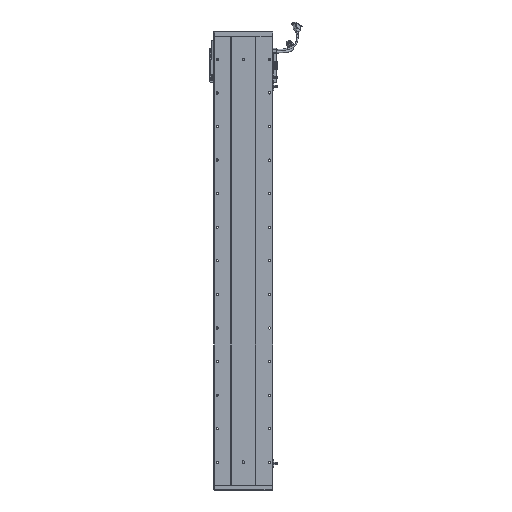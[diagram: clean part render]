
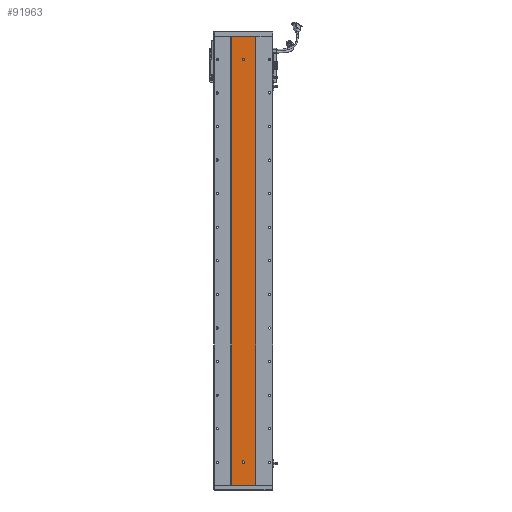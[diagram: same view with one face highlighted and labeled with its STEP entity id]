
A CAD part, front view. The second image highlights one B-rep face of the part: STEP entity #91963.
In plain terms, the highlighted planar face has unit normal (0, -1, 0).
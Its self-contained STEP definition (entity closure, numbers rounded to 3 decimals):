
#1575 = ORIENTED_EDGE ( 'NONE', *, *, #8328, .F. ) ;
#1707 = DIRECTION ( 'NONE',  ( 0., 0., -1. ) ) ;
#1928 = DIRECTION ( 'NONE',  ( 0., 0., -1. ) ) ;
#2751 = VECTOR ( 'NONE', #83590, 1000. ) ;
#5515 = CARTESIAN_POINT ( 'NONE',  ( 3277.529, 1415.701, 70. ) ) ;
#6787 = ORIENTED_EDGE ( 'NONE', *, *, #28396, .T. ) ;
#7328 = CARTESIAN_POINT ( 'NONE',  ( 3283.529, 1415.701, 70. ) ) ;
#7798 = CARTESIAN_POINT ( 'NONE',  ( 3280.529, 1415.701, 1271.5 ) ) ;
#8328 = EDGE_CURVE ( 'NONE', #8463, #70499, #37011, .T. ) ;
#8463 = VERTEX_POINT ( 'NONE', #17345 ) ;
#8589 = DIRECTION ( 'NONE',  ( 0., -1., 0. ) ) ;
#8596 = VECTOR ( 'NONE', #14238, 1000. ) ;
#9028 = CIRCLE ( 'NONE', #21273, 3. ) ;
#9579 = VERTEX_POINT ( 'NONE', #58593 ) ;
#11524 = EDGE_CURVE ( 'NONE', #33697, #50998, #18858, .T. ) ;
#11612 = ORIENTED_EDGE ( 'NONE', *, *, #40353, .F. ) ;
#11848 = ORIENTED_EDGE ( 'NONE', *, *, #11524, .F. ) ;
#12947 = ORIENTED_EDGE ( 'NONE', *, *, #36102, .F. ) ;
#12991 = EDGE_LOOP ( 'NONE', ( #16657, #11848, #11612, #6787 ) ) ;
#13696 = CARTESIAN_POINT ( 'NONE',  ( 3316.311, 1415.701, 1337. ) ) ;
#14238 = DIRECTION ( 'NONE',  ( 0., 0., 1. ) ) ;
#14892 = DIRECTION ( 'NONE',  ( 0., 0., 1. ) ) ;
#16000 = CARTESIAN_POINT ( 'NONE',  ( 3244.748, 1415.701, 1337. ) ) ;
#16657 = ORIENTED_EDGE ( 'NONE', *, *, #81113, .T. ) ;
#17109 = DIRECTION ( 'NONE',  ( 1., 0., 0. ) ) ;
#17345 = CARTESIAN_POINT ( 'NONE',  ( 3283.529, 1415.701, 70. ) ) ;
#18494 = AXIS2_PLACEMENT_3D ( 'NONE', #38481, #53822, #88657 ) ;
#18858 = LINE ( 'NONE', #13696, #61511 ) ;
#19363 = DIRECTION ( 'NONE',  ( 0., 0., -1. ) ) ;
#20820 = CARTESIAN_POINT ( 'NONE',  ( 3244.748, 1415.701, 0. ) ) ;
#21273 = AXIS2_PLACEMENT_3D ( 'NONE', #40180, #61555, #82843 ) ;
#21808 = DIRECTION ( 'NONE',  ( 0., 1., 0. ) ) ;
#24726 = CARTESIAN_POINT ( 'NONE',  ( 3283.529, 1415.701, 67. ) ) ;
#28125 = VERTEX_POINT ( 'NONE', #7798 ) ;
#28396 = EDGE_CURVE ( 'NONE', #64522, #32036, #88911, .T. ) ;
#28525 = ORIENTED_EDGE ( 'NONE', *, *, #75137, .F. ) ;
#31021 = FACE_BOUND ( 'NONE', #80740, .T. ) ;
#32036 = VERTEX_POINT ( 'NONE', #20820 ) ;
#32767 = DIRECTION ( 'NONE',  ( 0., -1., 0. ) ) ;
#32855 = CARTESIAN_POINT ( 'NONE',  ( 3316.311, 1415.701, 1337. ) ) ;
#33697 = VERTEX_POINT ( 'NONE', #32855 ) ;
#35833 = LINE ( 'NONE', #60094, #86297 ) ;
#36102 = EDGE_CURVE ( 'NONE', #72199, #84488, #57563, .T. ) ;
#37011 = CIRCLE ( 'NONE', #61444, 3. ) ;
#37372 = CARTESIAN_POINT ( 'NONE',  ( 3280.529, 1415.701, 67. ) ) ;
#38481 = CARTESIAN_POINT ( 'NONE',  ( 3280.529, 1415.701, 1268.5 ) ) ;
#38809 = CIRCLE ( 'NONE', #18494, 3. ) ;
#39942 = EDGE_CURVE ( 'NONE', #9579, #28125, #47838, .T. ) ;
#39976 = FACE_OUTER_BOUND ( 'NONE', #12991, .T. ) ;
#40180 = CARTESIAN_POINT ( 'NONE',  ( 3280.529, 1415.701, 67. ) ) ;
#40353 = EDGE_CURVE ( 'NONE', #64522, #33697, #92529, .T. ) ;
#44244 = DIRECTION ( 'NONE',  ( 0., -1., 0. ) ) ;
#44688 = CARTESIAN_POINT ( 'NONE',  ( 3280.529, 1415.701, 1268.5 ) ) ;
#47838 = CIRCLE ( 'NONE', #49963, 3. ) ;
#48449 = DIRECTION ( 'NONE',  ( 1., 0., 0. ) ) ;
#49963 = AXIS2_PLACEMENT_3D ( 'NONE', #44688, #32767, #60695 ) ;
#50998 = VERTEX_POINT ( 'NONE', #81732 ) ;
#51643 = ORIENTED_EDGE ( 'NONE', *, *, #83727, .F. ) ;
#51650 = EDGE_CURVE ( 'NONE', #84488, #78385, #9028, .T. ) ;
#51910 = VECTOR ( 'NONE', #19363, 1000. ) ;
#53822 = DIRECTION ( 'NONE',  ( 0., -1., 0. ) ) ;
#54600 = LINE ( 'NONE', #7328, #8596 ) ;
#55376 = CARTESIAN_POINT ( 'NONE',  ( 3277.529, 1415.701, 67. ) ) ;
#57400 = EDGE_CURVE ( 'NONE', #78385, #8463, #54600, .T. ) ;
#57563 = CIRCLE ( 'NONE', #71990, 3. ) ;
#57914 = CARTESIAN_POINT ( 'NONE',  ( 3244.748, 1415.701, 1337. ) ) ;
#58593 = CARTESIAN_POINT ( 'NONE',  ( 3280.529, 1415.701, 1265.5 ) ) ;
#59006 = CARTESIAN_POINT ( 'NONE',  ( 3277.529, 1415.701, 70. ) ) ;
#60094 = CARTESIAN_POINT ( 'NONE',  ( 3244.748, 1415.701, 0. ) ) ;
#60695 = DIRECTION ( 'NONE',  ( 0., 0., -1. ) ) ;
#61444 = AXIS2_PLACEMENT_3D ( 'NONE', #87653, #8589, #1707 ) ;
#61511 = VECTOR ( 'NONE', #83984, 1000. ) ;
#61555 = DIRECTION ( 'NONE',  ( 0., -1., 0. ) ) ;
#64041 = CARTESIAN_POINT ( 'NONE',  ( 3280.529, 1415.701, 64. ) ) ;
#64515 = LINE ( 'NONE', #5515, #2751 ) ;
#64522 = VERTEX_POINT ( 'NONE', #16000 ) ;
#67904 = ORIENTED_EDGE ( 'NONE', *, *, #57400, .F. ) ;
#69646 = EDGE_LOOP ( 'NONE', ( #12947, #28525, #1575, #67904, #87325 ) ) ;
#70100 = VECTOR ( 'NONE', #48449, 1000. ) ;
#70499 = VERTEX_POINT ( 'NONE', #59006 ) ;
#71990 = AXIS2_PLACEMENT_3D ( 'NONE', #37372, #44244, #1928 ) ;
#72199 = VERTEX_POINT ( 'NONE', #55376 ) ;
#73150 = CARTESIAN_POINT ( 'NONE',  ( 3244.748, 1415.701, 1337. ) ) ;
#75002 = ORIENTED_EDGE ( 'NONE', *, *, #39942, .F. ) ;
#75137 = EDGE_CURVE ( 'NONE', #70499, #72199, #64515, .T. ) ;
#78385 = VERTEX_POINT ( 'NONE', #24726 ) ;
#80740 = EDGE_LOOP ( 'NONE', ( #75002, #51643 ) ) ;
#81113 = EDGE_CURVE ( 'NONE', #32036, #50998, #35833, .T. ) ;
#81732 = CARTESIAN_POINT ( 'NONE',  ( 3316.311, 1415.701, 0. ) ) ;
#82843 = DIRECTION ( 'NONE',  ( 0., 0., -1. ) ) ;
#83011 = CARTESIAN_POINT ( 'NONE',  ( 3244.748, 1415.701, 1337. ) ) ;
#83590 = DIRECTION ( 'NONE',  ( 0., 0., -1. ) ) ;
#83727 = EDGE_CURVE ( 'NONE', #28125, #9579, #38809, .T. ) ;
#83984 = DIRECTION ( 'NONE',  ( 0., 0., -1. ) ) ;
#84488 = VERTEX_POINT ( 'NONE', #64041 ) ;
#85802 = PLANE ( 'NONE',  #86588 ) ;
#86297 = VECTOR ( 'NONE', #17109, 1000. ) ;
#86588 = AXIS2_PLACEMENT_3D ( 'NONE', #57914, #21808, #14892 ) ;
#87325 = ORIENTED_EDGE ( 'NONE', *, *, #51650, .F. ) ;
#87653 = CARTESIAN_POINT ( 'NONE',  ( 3280.529, 1415.701, 70. ) ) ;
#88657 = DIRECTION ( 'NONE',  ( 0., 0., -1. ) ) ;
#88911 = LINE ( 'NONE', #83011, #51910 ) ;
#90518 = FACE_BOUND ( 'NONE', #69646, .T. ) ;
#91963 = ADVANCED_FACE ( 'NONE', ( #90518, #31021, #39976 ), #85802, .F. ) ;
#92529 = LINE ( 'NONE', #73150, #70100 ) ;
